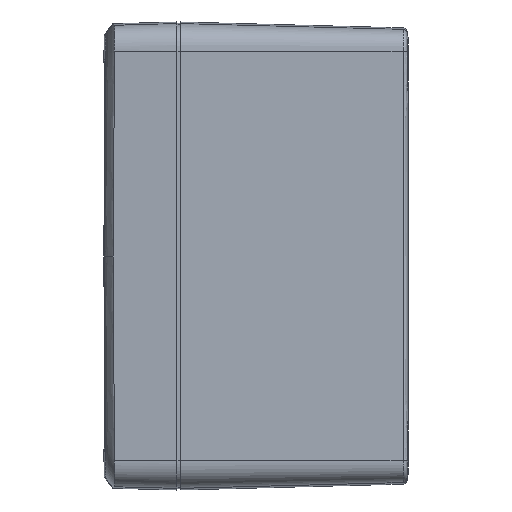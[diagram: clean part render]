
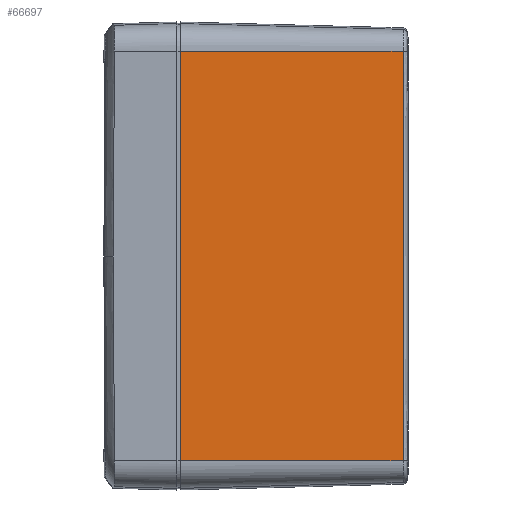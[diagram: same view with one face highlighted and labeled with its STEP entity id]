
A CAD part, left-side view. The second image highlights one B-rep face of the part: STEP entity #66697.
In plain terms, the highlighted planar face has unit normal (-1, -0.026, 0).
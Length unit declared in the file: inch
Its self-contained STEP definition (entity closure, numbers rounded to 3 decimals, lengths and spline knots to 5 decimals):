
#4471 = DIRECTION ( 'NONE',  ( 0.026, -1., 0. ) ) ;
#8603 = VECTOR ( 'NONE', #80212, 39.37008 ) ;
#9234 = EDGE_CURVE ( 'NONE', #59419, #90716, #86284, .T. ) ;
#10184 = CARTESIAN_POINT ( 'NONE',  ( -2.82212, 0.04673, 1.85995 ) ) ;
#13680 = CARTESIAN_POINT ( 'NONE',  ( -2.875, 2.06625, 1.85995 ) ) ;
#17963 = VERTEX_POINT ( 'NONE', #107238 ) ;
#18816 = CARTESIAN_POINT ( 'NONE',  ( -2.82212, 0.04673, -0.61998 ) ) ;
#24172 = FACE_OUTER_BOUND ( 'NONE', #62079, .T. ) ;
#26029 = B_SPLINE_CURVE_WITH_KNOTS ( 'NONE', 3,
 ( #29116, #18816, #106188, #10184 ),
 .UNSPECIFIED., .F., .F.,
 ( 4, 4 ),
 ( 0., 1. ),
 .UNSPECIFIED. ) ;
#26439 = DIRECTION ( 'NONE',  ( -1., -0.026, 0. ) ) ;
#29116 = CARTESIAN_POINT ( 'NONE',  ( -2.82212, 0.04671, -1.85995 ) ) ;
#31131 = CARTESIAN_POINT ( 'NONE',  ( -2.82212, 0.04673, 1.85995 ) ) ;
#37336 = LINE ( 'NONE', #13680, #49316 ) ;
#39216 = CARTESIAN_POINT ( 'NONE',  ( -2.875, 2.06625, -1.85995 ) ) ;
#41131 = ORIENTED_EDGE ( 'NONE', *, *, #87374, .T. ) ;
#42350 = CARTESIAN_POINT ( 'NONE',  ( -2.875, 2.06625, 1.85995 ) ) ;
#45136 = CARTESIAN_POINT ( 'NONE',  ( -2.875, 2.06625, -1.85995 ) ) ;
#47227 = ORIENTED_EDGE ( 'NONE', *, *, #9234, .F. ) ;
#47802 = EDGE_CURVE ( 'NONE', #59419, #17963, #89402, .T. ) ;
#49316 = VECTOR ( 'NONE', #4471, 39.37008 ) ;
#51772 = DIRECTION ( 'NONE',  ( 0., 0., 1. ) ) ;
#54748 = ORIENTED_EDGE ( 'NONE', *, *, #47802, .T. ) ;
#57544 = VERTEX_POINT ( 'NONE', #31131 ) ;
#59241 = PLANE ( 'NONE',  #100208 ) ;
#59419 = VERTEX_POINT ( 'NONE', #63944 ) ;
#62079 = EDGE_LOOP ( 'NONE', ( #54748, #41131, #65695, #47227 ) ) ;
#63944 = CARTESIAN_POINT ( 'NONE',  ( -2.875, 2.06625, -1.85995 ) ) ;
#65695 = ORIENTED_EDGE ( 'NONE', *, *, #108093, .F. ) ;
#66697 = ADVANCED_FACE ( 'Face2', ( #24172 ), #59241, .T. ) ;
#67929 = VECTOR ( 'NONE', #51772, 39.37008 ) ;
#80212 = DIRECTION ( 'NONE',  ( 0.026, -1., 0. ) ) ;
#86284 = LINE ( 'NONE', #95449, #67929 ) ;
#87374 = EDGE_CURVE ( 'NONE', #17963, #57544, #26029, .T. ) ;
#87981 = DIRECTION ( 'NONE',  ( 0.026, -1., 0. ) ) ;
#89402 = LINE ( 'NONE', #45136, #8603 ) ;
#90716 = VERTEX_POINT ( 'NONE', #42350 ) ;
#95449 = CARTESIAN_POINT ( 'NONE',  ( -2.875, 2.06625, -1.85995 ) ) ;
#100208 = AXIS2_PLACEMENT_3D ( 'NONE', #39216, #26439, #87981 ) ;
#106188 = CARTESIAN_POINT ( 'NONE',  ( -2.82212, 0.04673, 0.61998 ) ) ;
#107238 = CARTESIAN_POINT ( 'NONE',  ( -2.82212, 0.04671, -1.85995 ) ) ;
#108093 = EDGE_CURVE ( 'NONE', #90716, #57544, #37336, .T. ) ;
